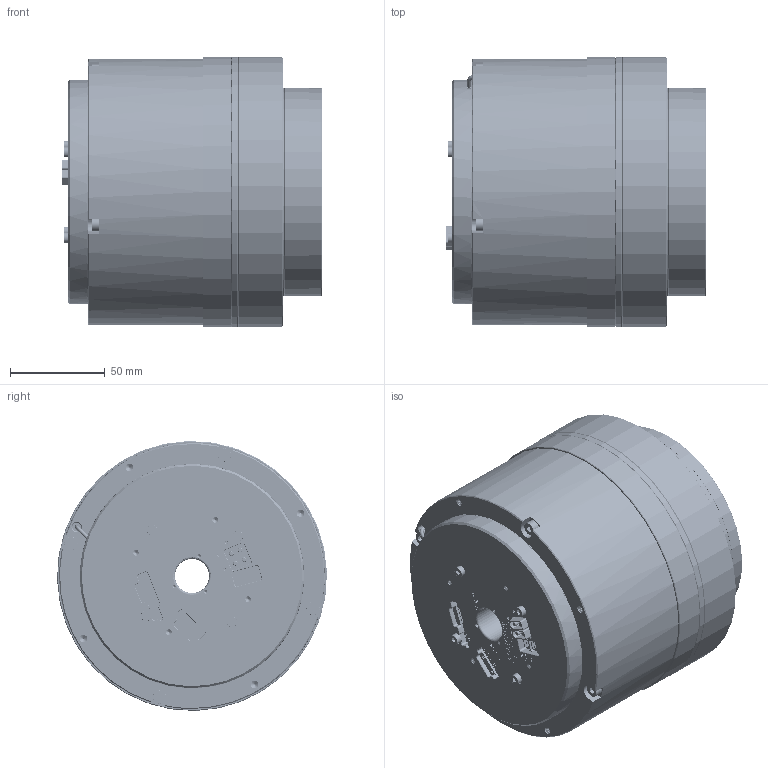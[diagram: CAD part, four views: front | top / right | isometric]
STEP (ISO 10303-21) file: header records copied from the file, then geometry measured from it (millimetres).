
FILE_DESCRIPTION (( 'STEP AP203' ), '1' );
FILE_NAME ('eRob142H｡ﾁ｡ﾁI-XX-18EX_V4_MC2B.DX.XX.step', '2024-05-21T10:22:49', ( 'Windows User' ), ( 'P R C' ), 'SwSTEP 2.0', 'SolidWorks 2021', '' );
FILE_SCHEMA (( 'CONFIG_CONTROL_DESIGN' ));
Length unit declared in the file: millimetre
Products named in the file (1): eRob142H××I-XX-18EX_V4_MC2B.DX.XX
Bounding box: 137.3 x 142 x 142 mm (x, y, z)
Volume: 1840096.7 mm3; surface area: 124985.4 mm2
Topology: 1 solids, 1 shells, 4909 faces, 13363 edges, 8698 vertices
Faces by surface type: plane 2383, cylinder 1799, bspline 508, cone 171, torus 48
Entity records: 335513 total; most frequent: CARTESIAN_POINT 221741, ORIENTED_EDGE 26538, DIRECTION 20042, EDGE_CURVE 13269, VERTEX_POINT 8698, LINE 8160, VECTOR 8160, AXIS2_PLACEMENT_3D 5941
